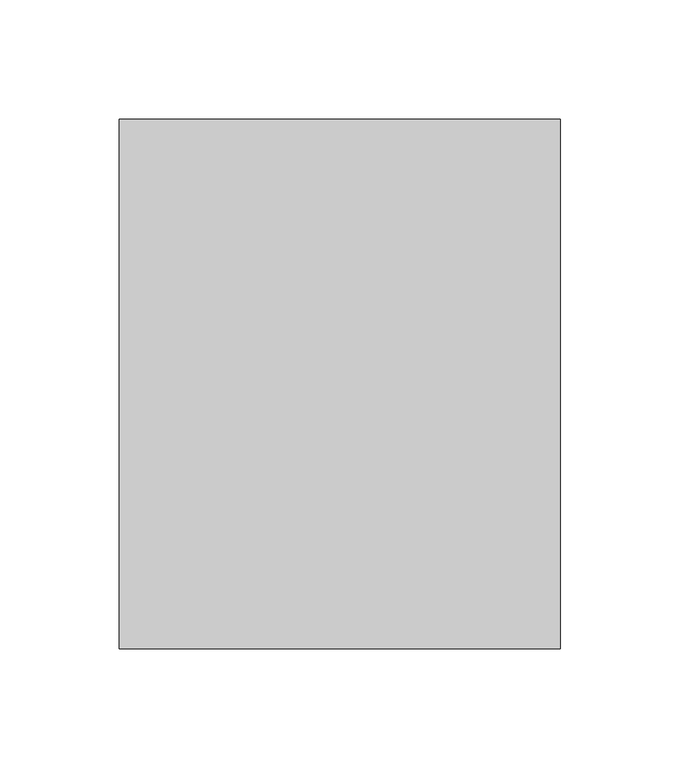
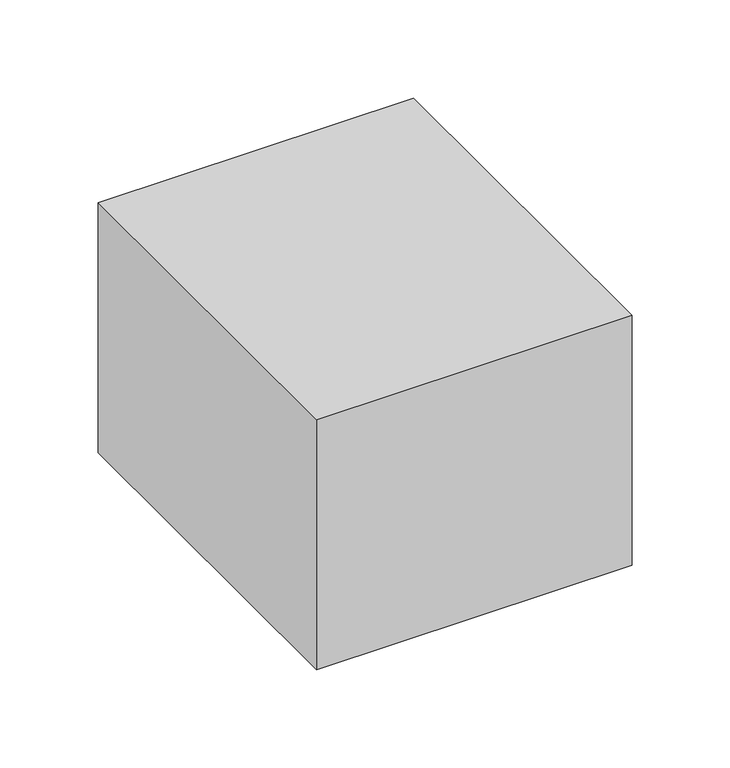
"""IFC4 building model written with IfcOpenShell, lengths in millimetres: light fixture geometry,  220 :  212310."""

from ifc_helpers import new_model, si_unit, frame, origin, place, context, project, spatial, polyline, outline, extrude, source, transform, mapped, element, save


def light_fixture_48a183f7(model_context):
    return source(origin(), model_context, "Body", "SweptSolid", [
        extrude(outline(polyline([(22613.3746511, -670.1878255), (22798.3746511, -670.1878255), (22798.3746511, -892.1878255), (22613.3746511, -892.1878255), (22613.3746511, -670.1878255)])), frame((0.0, 0.0, 1375.0), z_axis=(0.0, 0.0, 1.0), x_axis=(1.0, 0.0, 0.0)), (0.0, 0.0, 1.0), 155.0),
    ])


if __name__ == "__main__":
    model = new_model("IFC4")
    model_context = context("Model", 3, world=origin())
    ifc_project = project(units=[si_unit("LENGTHUNIT", "METRE", prefix="MILLI")], contexts=[model_context])
    site = spatial("IfcSite", under=ifc_project)
    building = spatial("IfcBuilding", under=site)
    placement = place(None, origin())
    light_fixture_shape = light_fixture_48a183f7(model_context)
    element("IfcLightFixture", 1, ObjectType=" 220 :  212310", at=placement, inside=building, context=model_context, shape_type="MappedRepresentation", body=[
        mapped(light_fixture_shape, transform((0.0, 0.0, 0.0), x_axis=(1.0, 0.0, 0.0), y_axis=(0.0, 1.0, 0.0), z_axis=(0.0, 0.0, 1.0))),
    ])
    save(model, "model.ifc")
